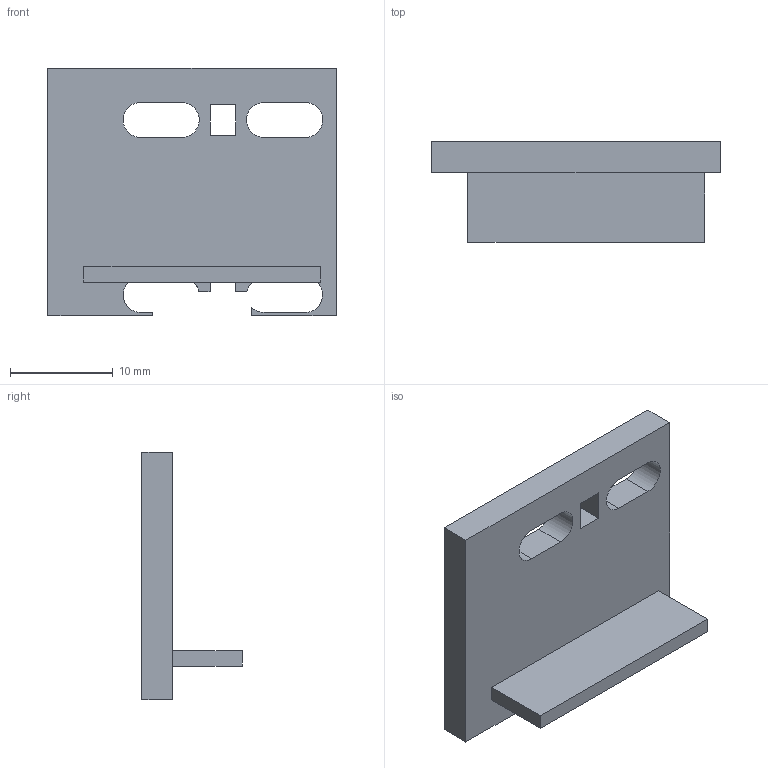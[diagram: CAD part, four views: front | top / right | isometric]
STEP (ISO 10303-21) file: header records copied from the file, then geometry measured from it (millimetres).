
FILE_DESCRIPTION(('Open CASCADE Model'),'2;1');
FILE_NAME('Open CASCADE Shape Model','2026-10-05T06:01:10',('Author'),( 'Open CASCADE'),'Open CASCADE STEP processor 7.8','Open CASCADE 7.8' ,'Unknown');
FILE_SCHEMA(('AUTOMOTIVE_DESIGN { 1 0 10303 214 1 1 1 1 }'));
Length unit declared in the file: millimetre
Products named in the file (1): Open CASCADE STEP translator 7.8 7
Bounding box: 28 x 9.75 x 24 mm (x, y, z)
Volume: 1906.4 mm3; surface area: 2000.3 mm2
Topology: 1 solids, 1 shells, 45 faces, 129 edges, 86 vertices
Faces by surface type: plane 36, cylinder 9
Entity records: 3046 total; most frequent: CARTESIAN_POINT 637, DIRECTION 383, ORIENTED_EDGE 258, PCURVE 258, DEFINITIONAL_REPRESENTATION 258, LINE 225, VECTOR 225, EDGE_CURVE 129
